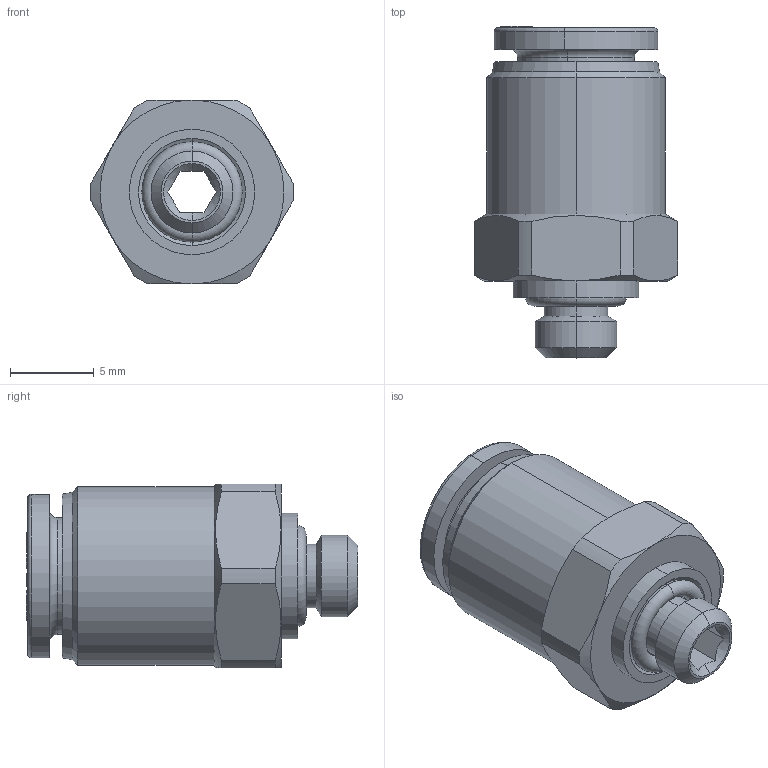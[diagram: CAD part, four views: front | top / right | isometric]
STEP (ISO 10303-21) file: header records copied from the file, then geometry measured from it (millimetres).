
FILE_DESCRIPTION (( 'STEP AP214' ), '1' );
FILE_NAME ('5602000009.STEP', '2016-05-24T06:53:43', ( '' ), ( '' ), 'SwSTEP 2.0', 'SolidWorks 2016', '' );
FILE_SCHEMA (( 'AUTOMOTIVE_DESIGN' ));
Length unit declared in the file: millimetre
Products named in the file (1): 5602000009
Bounding box: 12.2 x 19.85 x 11 mm (x, y, z)
Surface area: 1137.5 mm2 (no closed solid volume)
Topology: 0 solids, 6 shells, 235 faces, 731 edges, 488 vertices
Faces by surface type: plane 122, bspline 59, cone 22, cylinder 22, torus 10
Entity records: 12253 total; most frequent: CARTESIAN_POINT 3700, ORIENTED_EDGE 1287, DIRECTION 995, EDGE_CURVE 731, VERTEX_POINT 488, LINE 449, VECTOR 449, AXIS2_PLACEMENT_3D 273
